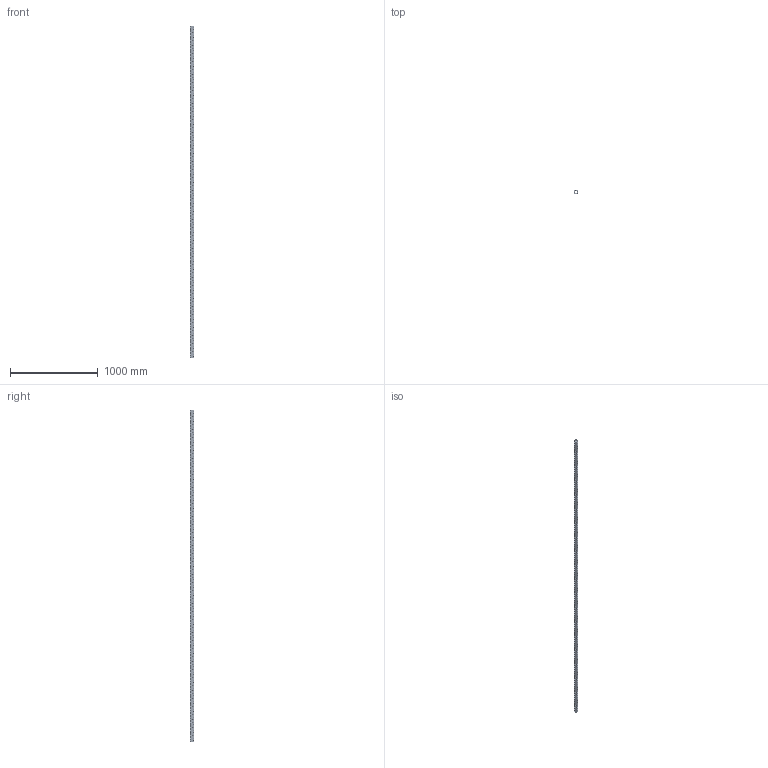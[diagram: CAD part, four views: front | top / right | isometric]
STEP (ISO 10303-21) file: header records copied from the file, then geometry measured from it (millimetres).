
FILE_DESCRIPTION(('CATIA V5 STEP Exchange'),'2;1');
FILE_NAME('U:\Room\唐宝山\EGT002\46-01-010355-01-EGT002-3778.stp','2021-08-25T00:54:02+00:00',('none'),('none'),'CATIA Version 5 Release 21 GA (IN-10)','CATIA V5 STEP AP203','none');
FILE_SCHEMA(('CONFIG_CONTROL_DESIGN'));
Products named in the file (1): 46-01-010355-01-EGT002-3778
Bounding box: 50 x 50 x 3778 mm (x, y, z)
Volume: 2692034.6 mm3; surface area: 1296260 mm2
Topology: 1 solids, 1 shells, 5124 faces, 14106 edges, 8732 vertices
Faces by surface type: cone 3024, cylinder 2074, plane 26
Entity records: 207850 total; most frequent: CARTESIAN_POINT 83479, ORIENTED_EDGE 28212, DIRECTION 20131, EDGE_CURVE 14106, AXIS2_PLACEMENT_3D 9586, VERTEX_POINT 8732, EDGE_LOOP 6890, VECTOR 5422
